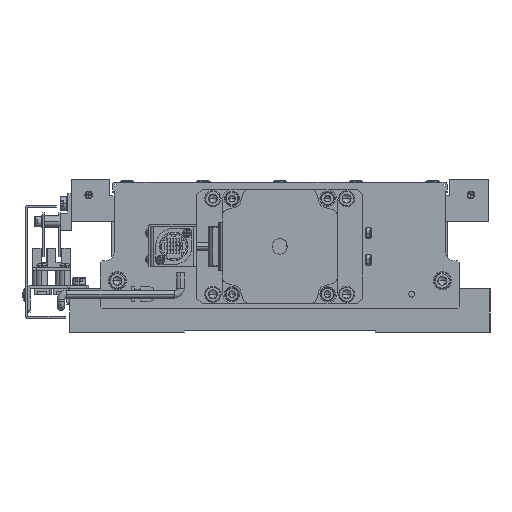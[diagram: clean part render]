
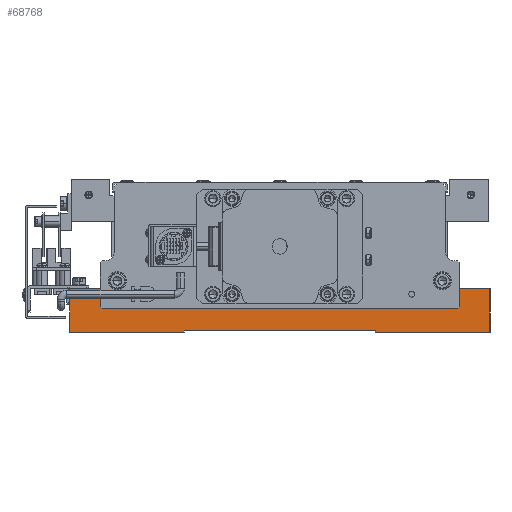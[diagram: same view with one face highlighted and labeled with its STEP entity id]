
A CAD part, left-side view. The second image highlights one B-rep face of the part: STEP entity #68768.
In plain terms, the highlighted planar face has unit normal (-1, 0, 0).
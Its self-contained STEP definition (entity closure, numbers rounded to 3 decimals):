
#811 = DIRECTION ( 'NONE',  ( 0., 0., -1. ) ) ;
#881 = CARTESIAN_POINT ( 'NONE',  ( -352., 110., 23. ) ) ;
#2625 = EDGE_CURVE ( 'NONE', #46857, #38305, #82863, .T. ) ;
#3353 = CARTESIAN_POINT ( 'NONE',  ( -352., 94., 45. ) ) ;
#3596 = ORIENTED_EDGE ( 'NONE', *, *, #10416, .T. ) ;
#4026 = VERTEX_POINT ( 'NONE', #37900 ) ;
#5995 = EDGE_CURVE ( 'NONE', #75412, #59640, #56039, .T. ) ;
#6415 = DIRECTION ( 'NONE',  ( 0., -1., 0. ) ) ;
#7747 = ORIENTED_EDGE ( 'NONE', *, *, #10707, .T. ) ;
#8387 = VECTOR ( 'NONE', #71899, 1000. ) ;
#9203 = DIRECTION ( 'NONE',  ( 0., 0., -1. ) ) ;
#10416 = EDGE_CURVE ( 'NONE', #36750, #65403, #11983, .T. ) ;
#10707 = EDGE_CURVE ( 'NONE', #30581, #72645, #46699, .T. ) ;
#11352 = ORIENTED_EDGE ( 'NONE', *, *, #55950, .F. ) ;
#11983 = LINE ( 'NONE', #92393, #78131 ) ;
#13332 = CARTESIAN_POINT ( 'NONE',  ( -352., 93., 12.5 ) ) ;
#14176 = DIRECTION ( 'NONE',  ( 0., 0., -1. ) ) ;
#15937 = DIRECTION ( 'NONE',  ( 0., 0., 1. ) ) ;
#17781 = CARTESIAN_POINT ( 'NONE',  ( -352., 110., 0. ) ) ;
#18008 = EDGE_CURVE ( 'NONE', #65403, #30581, #88261, .T. ) ;
#18437 = DIRECTION ( 'NONE',  ( 0., 0.707, -0.707 ) ) ;
#20020 = AXIS2_PLACEMENT_3D ( 'NONE', #83013, #29586, #14176 ) ;
#20274 = LINE ( 'NONE', #79404, #37131 ) ;
#20690 = LINE ( 'NONE', #87376, #82007 ) ;
#21305 = VECTOR ( 'NONE', #6415, 1000. ) ;
#23695 = LINE ( 'NONE', #69264, #21305 ) ;
#24699 = ORIENTED_EDGE ( 'NONE', *, *, #90127, .F. ) ;
#25264 = CARTESIAN_POINT ( 'NONE',  ( -352., 15.75, -64.75 ) ) ;
#26070 = VERTEX_POINT ( 'NONE', #67654 ) ;
#26142 = ORIENTED_EDGE ( 'NONE', *, *, #49886, .T. ) ;
#27644 = VECTOR ( 'NONE', #811, 1000. ) ;
#29436 = CARTESIAN_POINT ( 'NONE',  ( -352., -50., 0. ) ) ;
#29586 = DIRECTION ( 'NONE',  ( 1., 0., 0. ) ) ;
#29587 = CARTESIAN_POINT ( 'NONE',  ( -352., 94., 23. ) ) ;
#29706 = CARTESIAN_POINT ( 'NONE',  ( -352., 109.999, 23. ) ) ;
#30069 = CARTESIAN_POINT ( 'NONE',  ( -352., 50., 1. ) ) ;
#30305 = ORIENTED_EDGE ( 'NONE', *, *, #79203, .F. ) ;
#30573 = DIRECTION ( 'NONE',  ( 0., 0., -1. ) ) ;
#30581 = VERTEX_POINT ( 'NONE', #93384 ) ;
#36175 = CIRCLE ( 'NONE', #48968, 0.001 ) ;
#36349 = VERTEX_POINT ( 'NONE', #65526 ) ;
#36750 = VERTEX_POINT ( 'NONE', #38492 ) ;
#37131 = VECTOR ( 'NONE', #9203, 1000. ) ;
#37900 = CARTESIAN_POINT ( 'NONE',  ( -352., -50., 1. ) ) ;
#38305 = VERTEX_POINT ( 'NONE', #85137 ) ;
#38492 = CARTESIAN_POINT ( 'NONE',  ( -352., -93., 12.5 ) ) ;
#38972 = DIRECTION ( 'NONE',  ( 0., 1., 0. ) ) ;
#40090 = EDGE_CURVE ( 'NONE', #4026, #77624, #20690, .T. ) ;
#41699 = FACE_OUTER_BOUND ( 'NONE', #61992, .T. ) ;
#41970 = LINE ( 'NONE', #96348, #46766 ) ;
#43263 = ORIENTED_EDGE ( 'NONE', *, *, #18008, .T. ) ;
#44068 = VECTOR ( 'NONE', #54289, 1000. ) ;
#44501 = ORIENTED_EDGE ( 'NONE', *, *, #67927, .F. ) ;
#45072 = CARTESIAN_POINT ( 'NONE',  ( -352., -94., 0. ) ) ;
#46699 = LINE ( 'NONE', #3353, #63678 ) ;
#46766 = VECTOR ( 'NONE', #18437, 1000. ) ;
#46857 = VERTEX_POINT ( 'NONE', #60180 ) ;
#48968 = AXIS2_PLACEMENT_3D ( 'NONE', #60865, #68611, #30573 ) ;
#49886 = EDGE_CURVE ( 'NONE', #55474, #81817, #36175, .T. ) ;
#52403 = PLANE ( 'NONE',  #20020 ) ;
#53101 = ORIENTED_EDGE ( 'NONE', *, *, #67532, .T. ) ;
#54289 = DIRECTION ( 'NONE',  ( 0., 1., 0. ) ) ;
#54548 = CARTESIAN_POINT ( 'NONE',  ( -352., -50., 0. ) ) ;
#54944 = DIRECTION ( 'NONE',  ( 0., -1., 0. ) ) ;
#55303 = LINE ( 'NONE', #93182, #27644 ) ;
#55474 = VERTEX_POINT ( 'NONE', #29706 ) ;
#55599 = ORIENTED_EDGE ( 'NONE', *, *, #40090, .F. ) ;
#55950 = EDGE_CURVE ( 'NONE', #75412, #36349, #23695, .T. ) ;
#56039 = LINE ( 'NONE', #45072, #69298 ) ;
#58682 = DIRECTION ( 'NONE',  ( 0., 1., 0. ) ) ;
#58863 = VECTOR ( 'NONE', #58682, 1000. ) ;
#59356 = CARTESIAN_POINT ( 'NONE',  ( -352., 50., 0. ) ) ;
#59370 = ORIENTED_EDGE ( 'NONE', *, *, #5995, .T. ) ;
#59640 = VERTEX_POINT ( 'NONE', #85889 ) ;
#60180 = CARTESIAN_POINT ( 'NONE',  ( -352., 50., 0. ) ) ;
#60865 = CARTESIAN_POINT ( 'NONE',  ( -352., 109.999, 22.999 ) ) ;
#61026 = LINE ( 'NONE', #69497, #44068 ) ;
#61992 = EDGE_LOOP ( 'NONE', ( #11352, #59370, #53101, #3596, #43263, #7747, #44501, #26142, #94135, #84752, #30305, #55599, #81489, #78417, #24699 ) ) ;
#63678 = VECTOR ( 'NONE', #87969, 1000. ) ;
#65403 = VERTEX_POINT ( 'NONE', #13332 ) ;
#65526 = CARTESIAN_POINT ( 'NONE',  ( -352., -110., 23. ) ) ;
#67226 = LINE ( 'NONE', #881, #96019 ) ;
#67532 = EDGE_CURVE ( 'NONE', #59640, #36750, #41970, .T. ) ;
#67654 = CARTESIAN_POINT ( 'NONE',  ( -352., -110., 0. ) ) ;
#67906 = VECTOR ( 'NONE', #86749, 1000. ) ;
#67927 = EDGE_CURVE ( 'NONE', #55474, #72645, #67226, .T. ) ;
#68509 = LINE ( 'NONE', #17781, #8387 ) ;
#68611 = DIRECTION ( 'NONE',  ( -1., 0., 0. ) ) ;
#68768 = ADVANCED_FACE ( 'NONE', ( #41699 ), #52403, .F. ) ;
#69264 = CARTESIAN_POINT ( 'NONE',  ( -352., -75.5, 23. ) ) ;
#69298 = VECTOR ( 'NONE', #98884, 1000. ) ;
#69497 = CARTESIAN_POINT ( 'NONE',  ( -352., -110., 0. ) ) ;
#71673 = DIRECTION ( 'NONE',  ( 0., 1., 0. ) ) ;
#71899 = DIRECTION ( 'NONE',  ( 0., 0., 1. ) ) ;
#72645 = VERTEX_POINT ( 'NONE', #29587 ) ;
#72707 = EDGE_CURVE ( 'NONE', #26070, #87447, #61026, .T. ) ;
#75412 = VERTEX_POINT ( 'NONE', #97509 ) ;
#77624 = VERTEX_POINT ( 'NONE', #30069 ) ;
#78131 = VECTOR ( 'NONE', #38972, 1000. ) ;
#78417 = ORIENTED_EDGE ( 'NONE', *, *, #72707, .F. ) ;
#79203 = EDGE_CURVE ( 'NONE', #77624, #46857, #20274, .T. ) ;
#79347 = LINE ( 'NONE', #54548, #84119 ) ;
#79404 = CARTESIAN_POINT ( 'NONE',  ( -352., 50., 1. ) ) ;
#81489 = ORIENTED_EDGE ( 'NONE', *, *, #90151, .F. ) ;
#81817 = VERTEX_POINT ( 'NONE', #93765 ) ;
#82007 = VECTOR ( 'NONE', #71673, 1000. ) ;
#82863 = LINE ( 'NONE', #59356, #58863 ) ;
#83013 = CARTESIAN_POINT ( 'NONE',  ( -352., 110., 0. ) ) ;
#84119 = VECTOR ( 'NONE', #15937, 1000. ) ;
#84752 = ORIENTED_EDGE ( 'NONE', *, *, #2625, .F. ) ;
#85137 = CARTESIAN_POINT ( 'NONE',  ( -352., 110., 0. ) ) ;
#85889 = CARTESIAN_POINT ( 'NONE',  ( -352., -94., 13.5 ) ) ;
#86749 = DIRECTION ( 'NONE',  ( 0., 0.707, 0.707 ) ) ;
#87376 = CARTESIAN_POINT ( 'NONE',  ( -352., -50., 1. ) ) ;
#87447 = VERTEX_POINT ( 'NONE', #29436 ) ;
#87969 = DIRECTION ( 'NONE',  ( 0., 0., 1. ) ) ;
#88261 = LINE ( 'NONE', #25264, #67906 ) ;
#90127 = EDGE_CURVE ( 'NONE', #36349, #26070, #55303, .T. ) ;
#90151 = EDGE_CURVE ( 'NONE', #87447, #4026, #79347, .T. ) ;
#92393 = CARTESIAN_POINT ( 'NONE',  ( -352., -94., 12.5 ) ) ;
#93182 = CARTESIAN_POINT ( 'NONE',  ( -352., -110., 23. ) ) ;
#93384 = CARTESIAN_POINT ( 'NONE',  ( -352., 94., 13.5 ) ) ;
#93765 = CARTESIAN_POINT ( 'NONE',  ( -352., 110., 22.999 ) ) ;
#94135 = ORIENTED_EDGE ( 'NONE', *, *, #97016, .F. ) ;
#96019 = VECTOR ( 'NONE', #54944, 1000. ) ;
#96348 = CARTESIAN_POINT ( 'NONE',  ( -352., -109.75, 29.25 ) ) ;
#97016 = EDGE_CURVE ( 'NONE', #38305, #81817, #68509, .T. ) ;
#97509 = CARTESIAN_POINT ( 'NONE',  ( -352., -94., 23. ) ) ;
#98884 = DIRECTION ( 'NONE',  ( 0., 0., -1. ) ) ;
